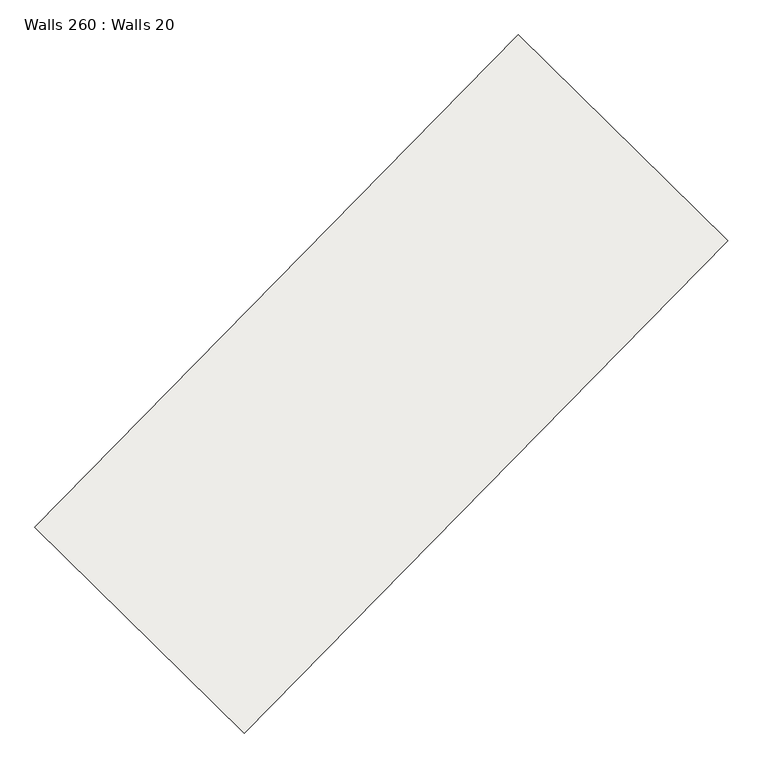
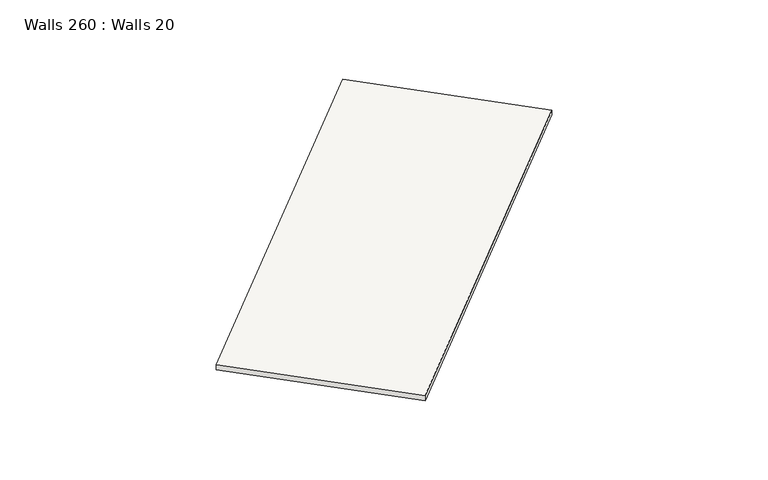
"""IFC4 building model written with IfcOpenShell, lengths in millimetres: slab geometry, Walls 260 : Walls 20."""

import ifcopenshell
import ifcopenshell.guid

model = None  # the IFC model being written
_history = None  # IfcOwnerHistory: only IFC2X3 demands one
_inside = {}  # id of a spatial element -> (the spatial element, [elements in it])
_under = {}  # id of a project, library or spatial element -> (it, [spatial elements below it])
_declared = {}  # id of a project -> (the project, [libraries it declares])
_typed = {}  # id of a type object -> (the type object, [elements of that type])
_made_of = {}  # id of a material, layer set ... -> (it, [elements and type objects made of it])


def new_model(schema):
    """Start an empty IFC model of exactly this schema.

    Asked for "IFC4X3", IfcOpenShell would pick the latest addendum, in which some entities
    have other attributes; the version numbers below select the first issue.
    IFC2X3 requires an IfcOwnerHistory on every rooted entity: one is made here for all.
    """
    global model, _history
    if schema == "IFC4X3":
        model = ifcopenshell.file(schema_version=(4, 3, 0, 0))
    else:
        model = ifcopenshell.file(schema=schema)
    _inside.clear()
    _under.clear()
    _declared.clear()
    _typed.clear()
    _made_of.clear()
    _history = None
    if model.schema == "IFC2X3":
        org = make("IfcOrganization", Name="unknown")
        user = make(
            "IfcPersonAndOrganization",
            ThePerson=make("IfcPerson", FamilyName="unknown"),
            TheOrganization=org,
        )
        app = make(
            "IfcApplication",
            ApplicationDeveloper=org,
            Version="unknown",
            ApplicationFullName="unknown",
            ApplicationIdentifier="unknown",
        )
        _history = make(
            "IfcOwnerHistory",
            OwningUser=user,
            OwningApplication=app,
            ChangeAction="ADDED",
            CreationDate=0,
        )
    return model


def make(cls, **values):
    """One entity of the class cls with the attributes given. An attribute that is None is left unset."""
    return model.create_entity(
        cls, **{name: value for name, value in values.items() if value is not None}
    )


def rooted(cls, **values):
    """An entity with a GlobalId (a new one), such as an element, a storey or a relation."""
    return make(cls, GlobalId=ifcopenshell.guid.new(), OwnerHistory=_history, **values)


def si_unit(unit_type, name, prefix=None):
    """IfcSIUnit, for example si_unit("LENGTHUNIT", "METRE", prefix="MILLI")."""
    return make("IfcSIUnit", UnitType=unit_type, Prefix=prefix, Name=name)


def assignment(units):
    """IfcUnitAssignment: the units of a project."""
    return None if units is None else make("IfcUnitAssignment", Units=units)


def point(xyz):
    """IfcCartesianPoint."""
    return None if xyz is None else make("IfcCartesianPoint", Coordinates=xyz)


def direction(xyz):
    """IfcDirection."""
    return None if xyz is None else make("IfcDirection", DirectionRatios=xyz)


def frame(location, z_axis=None, x_axis=None):
    """IfcAxis2Placement3D, a coordinate frame: its origin and axes. An axis left out is left unset."""
    return make(
        "IfcAxis2Placement3D",
        Location=point(location),
        Axis=direction(z_axis),
        RefDirection=direction(x_axis),
    )


def origin():
    """The frame at (0, 0, 0) with its axes left unset."""
    return frame((0.0, 0.0, 0.0))


def place(relative_to, where):
    """IfcLocalPlacement: puts the frame where relative to a parent placement (None: the world)."""
    return make(
        "IfcLocalPlacement", PlacementRelTo=relative_to, RelativePlacement=where
    )


def context(
    kind, dimensions, precision=None, world=None, true_north=None, identifier=None
):
    """IfcGeometricRepresentationContext, for example the 3D "Model" context."""
    return make(
        "IfcGeometricRepresentationContext",
        ContextIdentifier=identifier,
        ContextType=kind,
        CoordinateSpaceDimension=dimensions,
        Precision=precision,
        WorldCoordinateSystem=world,
        TrueNorth=true_north,
    )


def project(units=None, contexts=None):
    """IfcProject with its units and contexts."""
    return rooted(
        "IfcProject",
        Name="project",
        RepresentationContexts=contexts,
        UnitsInContext=assignment(units),
    )


def spatial(cls, under=None, at=None, **own):
    """A site, building, storey or space (cls), placed at a placement, below another one or the project."""
    s = rooted(cls, ObjectPlacement=at, **own)
    if under is not None:
        _under.setdefault(under.id(), (under, []))[1].append(s)
    return s


def polyline(points):
    """IfcPolyline through the points."""
    return make("IfcPolyline", Points=[point(p) for p in points])


def outline(outer, holes=None, kind="AREA"):
    """IfcArbitraryClosedProfileDef: a profile drawn as a closed curve; with holes, ...WithVoids."""
    if holes is None:
        return make("IfcArbitraryClosedProfileDef", ProfileType=kind, OuterCurve=outer)
    return make(
        "IfcArbitraryProfileDefWithVoids",
        ProfileType=kind,
        OuterCurve=outer,
        InnerCurves=holes,
    )


def extrude(swept, where, along, depth):
    """IfcExtrudedAreaSolid: the profile swept, set in the frame where, extruded along a direction by depth."""
    return make(
        "IfcExtrudedAreaSolid",
        SweptArea=swept,
        Position=where,
        ExtrudedDirection=direction(along),
        Depth=depth,
    )


def shape(context_of_items, identifier, shape_type, items):
    """IfcShapeRepresentation: the items that make up one representation, for example the "Body"."""
    return make(
        "IfcShapeRepresentation",
        ContextOfItems=context_of_items,
        RepresentationIdentifier=identifier,
        RepresentationType=shape_type,
        Items=items,
    )


def source(mapping_origin, context_of_items, identifier, shape_type, items):
    """IfcRepresentationMap: a shape defined once, which mapped items show again and again."""
    return make(
        "IfcRepresentationMap",
        MappingOrigin=mapping_origin,
        MappedRepresentation=shape(context_of_items, identifier, shape_type, items),
    )


def transform(
    local_origin,
    x_axis=None,
    y_axis=None,
    z_axis=None,
    scale=None,
    scale2=None,
    scale3=None,
    uniform=True,
):
    """IfcCartesianTransformationOperator3D, or its non-uniform kind. x_axis, y_axis, z_axis: its Axis1, 2, 3."""
    if uniform:
        return make(
            "IfcCartesianTransformationOperator3D",
            Axis1=direction(x_axis),
            Axis2=direction(y_axis),
            LocalOrigin=point(local_origin),
            Scale=scale,
            Axis3=direction(z_axis),
        )
    return make(
        "IfcCartesianTransformationOperator3DnonUniform",
        Axis1=direction(x_axis),
        Axis2=direction(y_axis),
        LocalOrigin=point(local_origin),
        Scale=scale,
        Axis3=direction(z_axis),
        Scale2=scale2,
        Scale3=scale3,
    )


def mapped(mapping_source, mapping_target):
    """IfcMappedItem: shows the shape of a source again, moved by a transform."""
    return make(
        "IfcMappedItem", MappingSource=mapping_source, MappingTarget=mapping_target
    )


def made_of(thing, what):
    """Note that an element or type object is made of a material, layer set ...; save() writes the relation."""
    if what is not None:
        _made_of.setdefault(what.id(), (what, []))[1].append(thing)
    return thing


def element(
    cls,
    number,
    at=None,
    inside=None,
    cuts=None,
    type_object=None,
    material=None,
    context=None,
    identifier="Body",
    shape_type=None,
    held_by="IfcProductDefinitionShape",
    body=None,
    shapes=None,
    **own,
):
    """One element of the class cls, such as IfcWall. Its Tag is "e" and its number.

    at: its placement. inside: the storey or other place that contains it. cuts: it is an
    opening in that element (IfcRelVoidsElement). A single representation is given by context,
    identifier, shape_type and body (its items); several are given by shapes. held_by: the class
    of the entity that holds the representations. save() writes the other relations.
    """
    e = rooted(cls, Tag="e%d" % number, ObjectPlacement=at, **own)
    if body is not None:
        shapes = [shape(context, identifier, shape_type, body)]
    if shapes is not None:
        e.Representation = make(held_by, Representations=shapes)
    if inside is not None:
        _inside.setdefault(inside.id(), (inside, []))[1].append(e)
    if cuts is not None:
        rooted(
            "IfcRelVoidsElement", RelatingBuildingElement=cuts, RelatedOpeningElement=e
        )
    if type_object is not None:
        _typed.setdefault(type_object.id(), (type_object, []))[1].append(e)
    return made_of(e, material)


def aggregate(whole, parts):
    """IfcRelAggregates: a whole, such as a stair, and the parts it consists of."""
    return rooted("IfcRelAggregates", RelatingObject=whole, RelatedObjects=parts)


def save(model, path):
    """Write the relations noted so far, then the file.

    IfcRelAggregates (storeys below a building ...), IfcRelContainedInSpatialStructure (elements
    in a storey), IfcRelDefinesByType, IfcRelAssociatesMaterial and IfcRelDeclares: one each for
    every whole, place, type object, material and project.
    """
    for whole, parts in _under.values():
        aggregate(whole, parts)
    for where, things in _inside.values():
        rooted(
            "IfcRelContainedInSpatialStructure",
            RelatedElements=things,
            RelatingStructure=where,
        )
    for kind, things in _typed.values():
        rooted("IfcRelDefinesByType", RelatedObjects=things, RelatingType=kind)
    for what, things in _made_of.values():
        rooted("IfcRelAssociatesMaterial", RelatedObjects=things, RelatingMaterial=what)
    for by, libraries in _declared.values():
        rooted("IfcRelDeclares", RelatingContext=by, RelatedDefinitions=libraries)
    model.write(path)


def walls_260_walls_20_226b52e5(model_context):
    return source(origin(), model_context, "Body", "SweptSolid", [
        extrude(outline(polyline([(-50.0, 0.0), (50.0, 0.0), (-30.0, -8700.0000004), (-130.0, -8700.0000004), (-50.0, 0.0)])), frame((-219322.4249237, -382834.2074462, 634860.0), z_axis=(-0.7136987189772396, 0.700452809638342, 0.0), x_axis=(0.0, 0.0, 1.0)), (0.0, 0.0, 1.0), 3700.0),
    ])


if __name__ == "__main__":
    model = new_model("IFC4")
    model_context = context("Model", 3, world=origin())
    ifc_project = project(units=[si_unit("LENGTHUNIT", "METRE", prefix="MILLI")], contexts=[model_context])
    site = spatial("IfcSite", under=ifc_project)
    building = spatial("IfcBuilding", under=site)
    placement = place(None, origin())
    walls_260_walls_20_shape = walls_260_walls_20_226b52e5(model_context)
    element("IfcSlab", 1, ObjectType="Walls 260 : Walls 20", at=placement, inside=building, context=model_context, shape_type="MappedRepresentation", body=[
        mapped(walls_260_walls_20_shape, transform((0.0, 0.0, 0.0), x_axis=(1.0, 0.0, 0.0), y_axis=(0.0, 1.0, 0.0), z_axis=(0.0, 0.0, 1.0))),
    ])
    save(model, "model.ifc")
